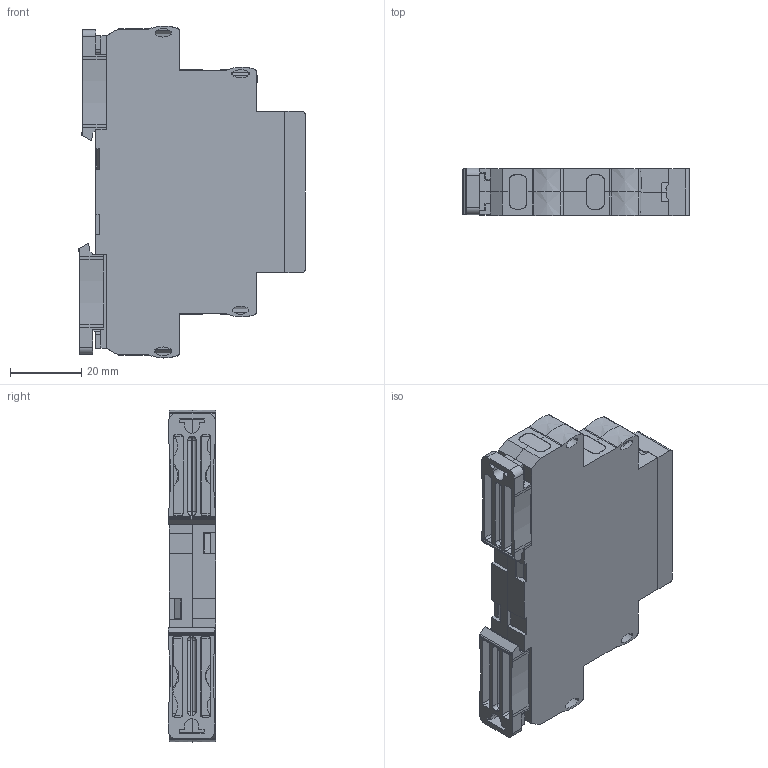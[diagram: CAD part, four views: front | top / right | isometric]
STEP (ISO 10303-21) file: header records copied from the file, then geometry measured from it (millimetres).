
FILE_DESCRIPTION(('STEP AP203'), '1');
FILE_NAME('ﾑ碚濱ﾇﾌ-1ﾌ', '', ('UNSPECIFIED'), ('UNSPECIFIED'), 'ASCON STEP Converter 1.6', 'ASCON Math Kernel', '');
FILE_SCHEMA(('CONFIG_CONTROL_DESIGN'));
Length unit declared in the file: millimetre
Products named in the file (11): Case13-18-23mm_2step_Half_v01a_Build20140909_1552_6.5mm; Case13-18-23mm_2step_Lock_v01a_Build20140909_1552; Case13_Face; Клемма DG128-5.08-1_Џｮ гｬｮｫзｭЁо; Case13_plug
Assembly tree (22 placements, depth 3):
  (unnamed)
    Case13-18-23mm_2step_Half_v01a_Build20140909_1552_6.5mm
    Case13-18-23mm_2step_Lock_v01a_Build20140909_1552  x2
    Case13-18-23mm_2step_Half_v01a_Build20140909_1552_6.5mm
    Case13_Face
    (unnamed)  x4
      Клемма DG128-5.08-1_Џｮ гｬｮｫзｭЁо
    Case13_plug  x8
    (unnamed)
    (unnamed)
    (unnamed)
Bounding box: 63.51 x 13.2 x 92.99 mm (x, y, z)
Volume: 21650.1 mm3; surface area: 37194.7 mm2
Topology: 141 solids, 141 shells, 8061 faces, 23093 edges, 15338 vertices
Faces by surface type: plane 6618, extrusion 1077, cylinder 326, cone 24, sphere 8, bspline 4, torus 4
Full cylindrical faces by diameter (mm): 1.238 x8, 3.9 x8
Entity records: 305656 total; most frequent: CARTESIAN_POINT 53503, ORIENTED_EDGE 42818, DIRECTION 33402, EDGE_CURVE 21409, VECTOR 19890, LINE 18813, VERTEX_POINT 14256, EDGE_LOOP 7537
